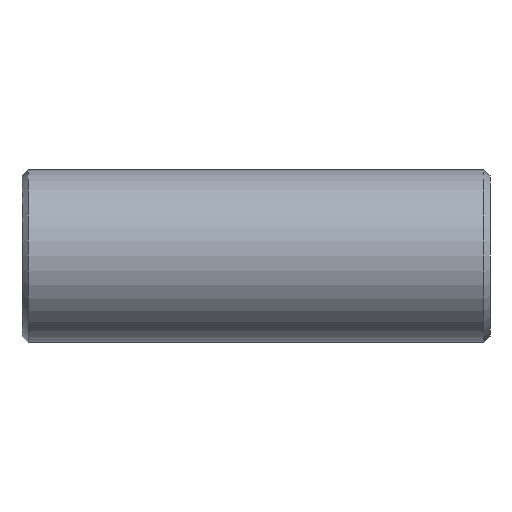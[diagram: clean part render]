
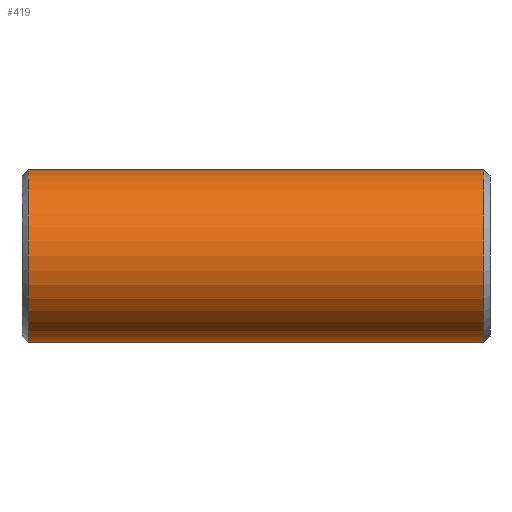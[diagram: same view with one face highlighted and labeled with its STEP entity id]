
A CAD part, front view. The second image highlights one B-rep face of the part: STEP entity #419.
In plain terms, the highlighted cylindrical face has radius 14 mm (diameter 28 mm), a partial arc.
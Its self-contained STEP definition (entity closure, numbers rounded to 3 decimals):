
#231=CARTESIAN_POINT('Vertex',(1.,0.,-14.)) ;
#238=CARTESIAN_POINT('Vertex',(1.,0.,14.)) ;
#267=CARTESIAN_POINT('Axis2P3D Location',(1.,0.,0.)) ;
#271=CARTESIAN_POINT('Vertex',(1.,-14.,0.)) ;
#274=CARTESIAN_POINT('Axis2P3D Location',(1.,0.,0.)) ;
#359=CARTESIAN_POINT('Line Origine',(76.,0.,14.)) ;
#363=CARTESIAN_POINT('Vertex',(75.,0.,14.)) ;
#377=CARTESIAN_POINT('Vertex',(75.,0.,-14.)) ;
#380=CARTESIAN_POINT('Line Origine',(76.,0.,-14.)) ;
#394=CARTESIAN_POINT('Axis2P3D Location',(76.,0.,0.)) ;
#399=CARTESIAN_POINT('Axis2P3D Location',(75.,0.,0.)) ;
#403=CARTESIAN_POINT('Vertex',(75.,-14.,0.)) ;
#406=CARTESIAN_POINT('Axis2P3D Location',(75.,0.,0.)) ;
#268=DIRECTION('Axis2P3D Direction',(1.,0.,-0.)) ;
#275=DIRECTION('Axis2P3D Direction',(1.,0.,-0.)) ;
#360=DIRECTION('Vector Direction',(-1.,0.,0.)) ;
#381=DIRECTION('Vector Direction',(-1.,0.,0.)) ;
#395=DIRECTION('Axis2P3D Direction',(-1.,-0.,-0.)) ;
#396=DIRECTION('Axis2P3D XDirection',(0.,0.,-1.)) ;
#400=DIRECTION('Axis2P3D Direction',(-1.,-0.,-0.)) ;
#407=DIRECTION('Axis2P3D Direction',(-1.,-0.,-0.)) ;
#269=AXIS2_PLACEMENT_3D('Circle Axis2P3D',#267,#268,$) ;
#276=AXIS2_PLACEMENT_3D('Circle Axis2P3D',#274,#275,$) ;
#397=AXIS2_PLACEMENT_3D('Cylinder Axis2P3D',#394,#395,#396) ;
#401=AXIS2_PLACEMENT_3D('Circle Axis2P3D',#399,#400,$) ;
#408=AXIS2_PLACEMENT_3D('Circle Axis2P3D',#406,#407,$) ;
#412=ORIENTED_EDGE('',*,*,#384,.T.) ;
#413=ORIENTED_EDGE('',*,*,#405,.F.) ;
#414=ORIENTED_EDGE('',*,*,#410,.F.) ;
#415=ORIENTED_EDGE('',*,*,#365,.T.) ;
#416=ORIENTED_EDGE('',*,*,#278,.T.) ;
#417=ORIENTED_EDGE('',*,*,#273,.T.) ;
#361=VECTOR('Line Direction',#360,1.) ;
#382=VECTOR('Line Direction',#381,1.) ;
#419=ADVANCED_FACE('352-20X76',(#418),#398,.T.) ;
#270=CIRCLE('generated circle',#269,14.) ;
#277=CIRCLE('generated circle',#276,14.) ;
#402=CIRCLE('generated circle',#401,14.) ;
#409=CIRCLE('generated circle',#408,14.) ;
#398=CYLINDRICAL_SURFACE('generated cylinder',#397,14.) ;
#273=EDGE_CURVE('',#272,#232,#270,.T.) ;
#278=EDGE_CURVE('',#239,#272,#277,.T.) ;
#365=EDGE_CURVE('',#364,#239,#362,.T.) ;
#384=EDGE_CURVE('',#232,#378,#383,.F.) ;
#405=EDGE_CURVE('',#404,#378,#402,.F.) ;
#410=EDGE_CURVE('',#364,#404,#409,.F.) ;
#411=EDGE_LOOP('',(#412,#413,#414,#415,#416,#417)) ;
#418=FACE_OUTER_BOUND('',#411,.T.) ;
#362=LINE('Line',#359,#361) ;
#383=LINE('Line',#380,#382) ;
#232=VERTEX_POINT('',#231) ;
#239=VERTEX_POINT('',#238) ;
#272=VERTEX_POINT('',#271) ;
#364=VERTEX_POINT('',#363) ;
#378=VERTEX_POINT('',#377) ;
#404=VERTEX_POINT('',#403) ;
